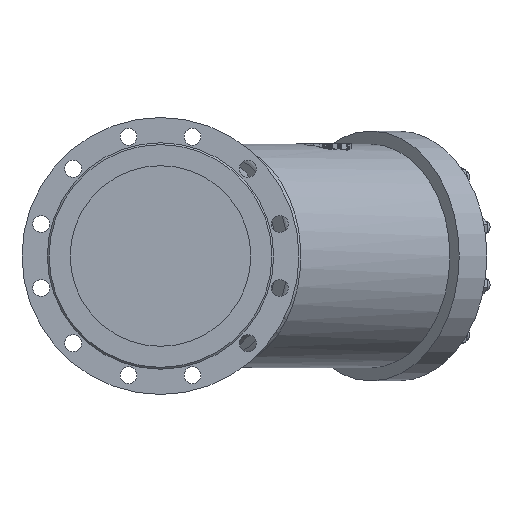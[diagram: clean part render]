
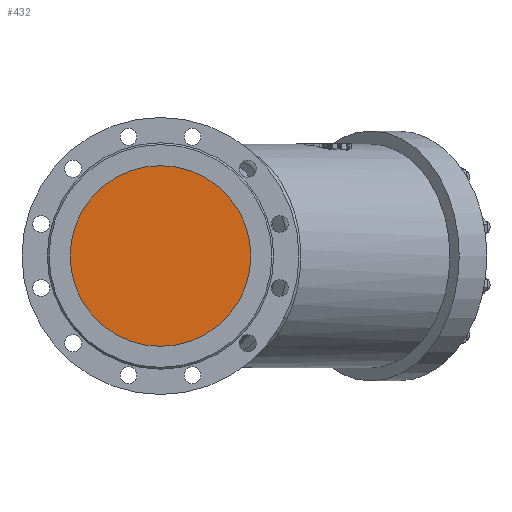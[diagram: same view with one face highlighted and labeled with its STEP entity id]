
A CAD part, left-side view. The second image highlights one B-rep face of the part: STEP entity #432.
In plain terms, the highlighted planar face has unit normal (-1, 0, 0).
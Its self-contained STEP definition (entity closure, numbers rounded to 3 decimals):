
#432=ADVANCED_FACE('',(#10166),#10168,.T.);
#10166=FACE_BOUND('',#10167,.T.);
#10167=EDGE_LOOP('',(#18860,#18861));
#10168=PLANE('',#10169);
#10169=AXIS2_PLACEMENT_3D('',#10170,#10171,#10172);
#10170=CARTESIAN_POINT('',(5035.986,2235.533,783.609));
#10171=DIRECTION('',(-1.,0.,0.));
#10172=DIRECTION('',(0.,0.,-1.));
#18860=ORIENTED_EDGE('',*,*,#24780,.F.);
#18861=ORIENTED_EDGE('',*,*,#24781,.F.);
#24780=EDGE_CURVE('',#28580,#28581,#28582,.T.);
#24781=EDGE_CURVE('',#28581,#28580,#28583,.T.);
#28580=VERTEX_POINT('',#37119);
#28581=VERTEX_POINT('',#37120);
#28582=CIRCLE('',#37121,150.);
#28583=CIRCLE('',#37125,150.);
#37119=CARTESIAN_POINT('',(5035.986,2244.272,0.));
#37120=CARTESIAN_POINT('',(5035.986,2544.272,0.));
#37121=AXIS2_PLACEMENT_3D('',#37122,#37123,#37124);
#37122=CARTESIAN_POINT('',(5035.986,2394.272,0.));
#37123=DIRECTION('',(1.,0.,0.));
#37124=DIRECTION('',(0.,-1.,0.));
#37125=AXIS2_PLACEMENT_3D('',#37126,#37127,#37128);
#37126=CARTESIAN_POINT('',(5035.986,2394.272,0.));
#37127=DIRECTION('',(1.,0.,0.));
#37128=DIRECTION('',(0.,1.,0.));
